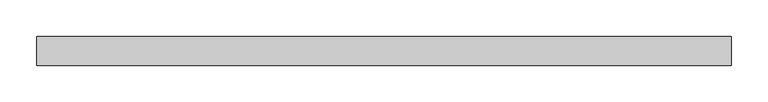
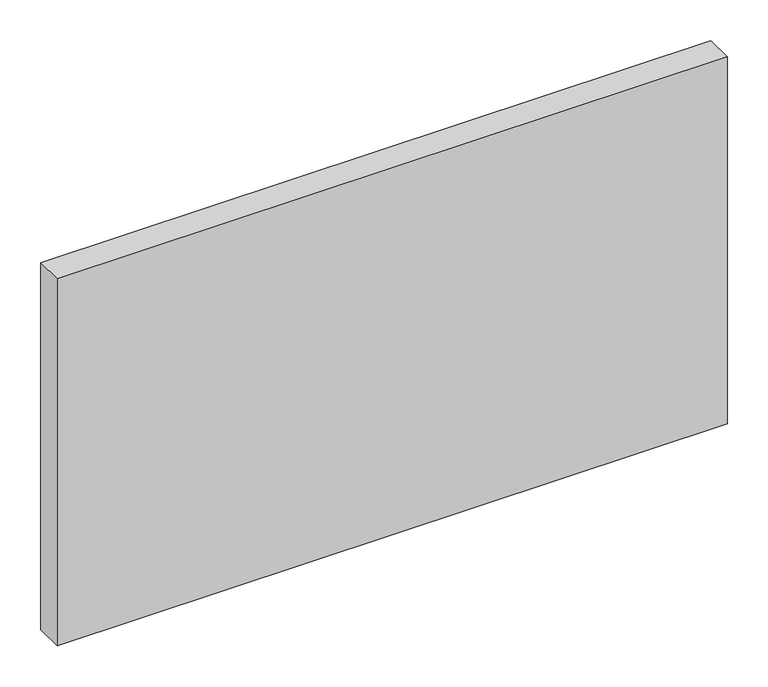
"""IFC4 building model written with IfcOpenShell, lengths in millimetres: plate geometry, Panneau système : Vitré."""

from ifc_helpers import new_model, si_unit, origin, origin_with_axes, place, context, project, spatial, polyline, outline, extrude, source, transform, mapped, element, save


def plate_6ff4f100(model_context):
    return source(origin(), model_context, "Body", "SweptSolid", [
        extrude(outline(polyline([(475.0, 5.0), (-475.0, 5.0), (-475.0, 45.0), (475.0, 45.0), (475.0, 5.0)])), origin_with_axes(), (0.0, 0.0, 1.0), 550.0),
    ])


if __name__ == "__main__":
    model = new_model("IFC4")
    model_context = context("Model", 3, world=origin())
    ifc_project = project(units=[si_unit("LENGTHUNIT", "METRE", prefix="MILLI")], contexts=[model_context])
    site = spatial("IfcSite", under=ifc_project)
    building = spatial("IfcBuilding", under=site)
    placement = place(None, origin())
    plate_shape = plate_6ff4f100(model_context)
    element("IfcPlate", 1, ObjectType="Panneau système : Vitré", at=placement, inside=building, context=model_context, shape_type="MappedRepresentation", body=[
        mapped(plate_shape, transform((0.0, 0.0, 0.0), x_axis=(1.0, 0.0, 0.0), y_axis=(0.0, 1.0, 0.0), z_axis=(0.0, 0.0, 1.0))),
    ])
    save(model, "model.ifc")
